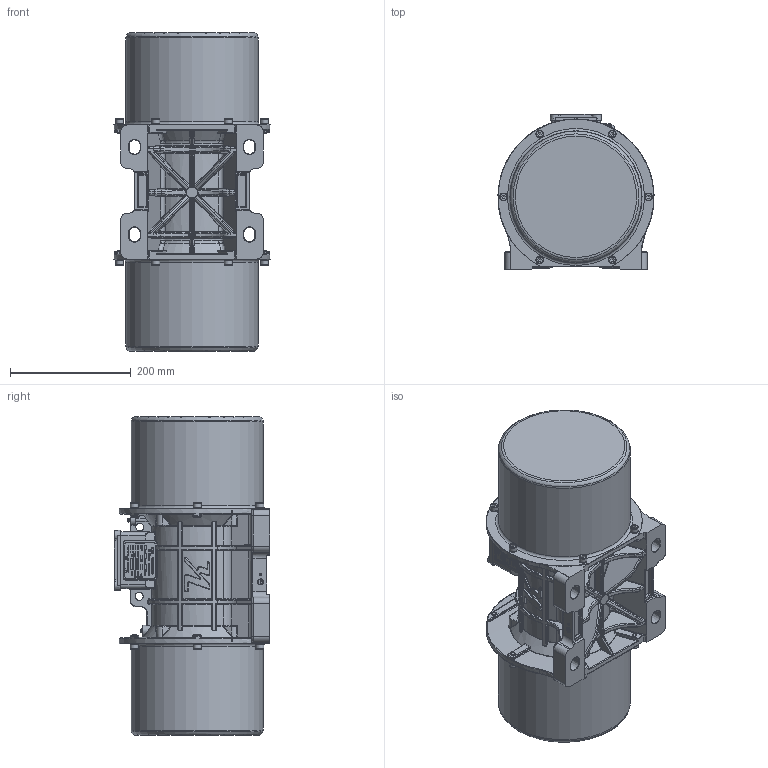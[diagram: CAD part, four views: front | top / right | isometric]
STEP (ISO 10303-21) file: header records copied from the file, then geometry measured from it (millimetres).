
FILE_DESCRIPTION(/* description */ (''),/* implementation_level */ '2;1');
FILE_NAME(/* name */ '5 NO C TAS.stp',/* time_stamp */ '2026-09-01T16:04:46+03:00',/* author */ ('PC'),/* organization */ (''),/* preprocessor_version */ 'ST-DEVELOPER v20.1',/* originating_system */ 'Autodesk Inventor 2026',/* authorisation */ '');
FILE_SCHEMA (('AUTOMOTIVE_DESIGN { 1 0 10303 214 3 1 1 }'));
Products named in the file (1): 5 NO C TAS
Bounding box: 258.38 x 256.94 x 527.6 mm (x, y, z)
Volume: 17687808.1 mm3; surface area: 687737.3 mm2
Topology: 1 solids, 36 shells, 5939 faces, 15488 edges, 9835 vertices
Faces by surface type: plane 2754, bspline 2102, cylinder 663, cone 205, torus 118, sphere 97
Full cylindrical faces by diameter (mm): 3 x2, 5 x3, 5.2 x1, 6.647 x8, 8 x20, 8.4 x14, 8.5 x16, 10 x2, 13 x12, 14 x3, 15 x1, 20 x1, 22 x1, 218.6 x2
Entity records: 293583 total; most frequent: CARTESIAN_POINT 154190, ORIENTED_EDGE 30768, DIRECTION 22443, EDGE_CURVE 15384, VERTEX_POINT 9835, LINE 8403, VECTOR 8403, AXIS2_PLACEMENT_3D 7020
